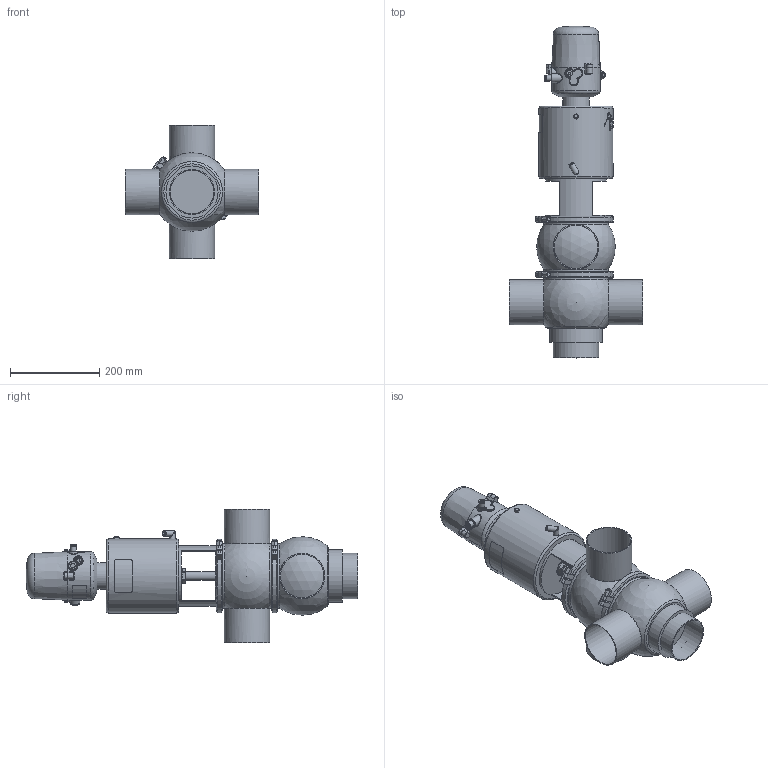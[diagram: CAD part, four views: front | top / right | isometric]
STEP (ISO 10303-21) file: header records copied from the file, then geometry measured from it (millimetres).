
FILE_DESCRIPTION (( 'STEP AP214' ), '1' );
FILE_NAME ('INNOVA K G W OD 4 T4 AS NC & C-TOP S_10.240.16.0082.STEP', '2024-08-06T09:06:37', ( '' ), ( '' ), 'SwSTEP 2.0', 'SolidWorks 2023', '' );
FILE_SCHEMA (( 'AUTOMOTIVE_DESIGN' ));
Length unit declared in the file: millimetre
Products named in the file (8): 10.426.15.0001_C-TOP S - 1 EV; 10.240.15.0003_OD 4"; 10.240.15.0001_DN 100; 10.240.15.0007_OD 4"; 10.240.15.0017_Estàndard; 10.240.15.0010_DN 100; INNOVA K G W OD 4 T4 AS NC & C-TOP S_10.240.16.0082; 10.240.15.0014_T4 AS P0
Assembly tree (8 placements, depth 2):
  INNOVA K G W OD 4 T4 AS NC & C-TOP S_10.240.16.0082
    10.240.15.0007_OD 4"
    10.240.15.0003_OD 4"
    10.240.15.0010_DN 100
    10.240.15.0014_T4 AS P0
    10.240.15.0017_Estàndard
    10.426.15.0001_C-TOP S - 1 EV
    10.240.15.0001_DN 100  x2
Bounding box: 300 x 744.5 x 300 mm (x, y, z)
Volume: 10852802.2 mm3; surface area: 814427.4 mm2
Topology: 8 solids, 8 shells, 1181 faces, 2863 edges, 1906 vertices
Faces by surface type: plane 412, cylinder 360, cone 201, bspline 160, torus 37, sphere 11
Full cylindrical faces by diameter (mm): 0.371 x17, 0.512 x16, 0.658 x16, 0.795 x16, 0.94 x15, 1.098 x15, 1.241 x13, 1.382 x13, 1.523 x11, 1.669 x10, 2.201 x1, 4 x2, 5.5 x2, 6 x2, 6.15 x1, 8 x6, 8.5 x1, 10 x1, 10.5 x1, 11 x2, 12.5 x3, 13 x2, 13.5 x2, 16 x1, 17 x3, 20 x3, 20.5 x1, 22 x2, 31 x1, 34.5 x3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
Entity records: 58318 total; most frequent: CARTESIAN_POINT 27926, ORIENTED_EDGE 4546, DIRECTION 3691, EDGE_CURVE 2273, VERTEX_POINT 1618, EDGE_LOOP 1583, AXIS2_PLACEMENT_3D 1517, FACE_OUTER_BOUND 1343
